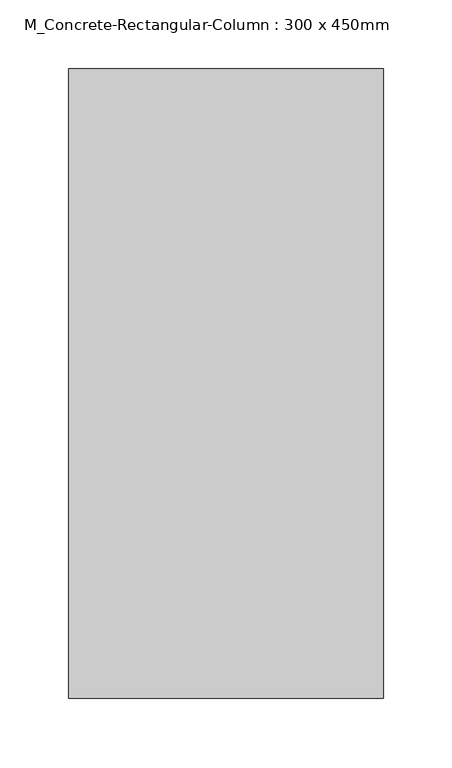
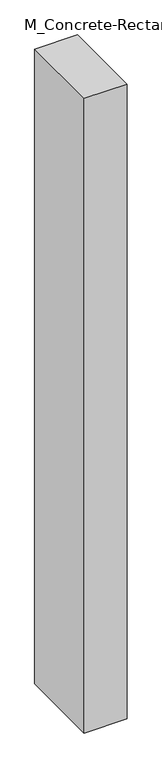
"""IFC4 building model written with IfcOpenShell, lengths in millimetres: column geometry, M_Concrete-Rectangular-Column : 300 x 450mm."""

from ifc_helpers import new_model, si_unit, frame, origin, place, context, project, spatial, polyline, outline, extrude, source, transform, mapped, element, save


def m_concrete_rectangular_column_300_x_450mm_978fc997(model_context):
    return source(origin(), model_context, "Body", "SweptSolid", [
        extrude(outline(polyline([(114.3, 228.6), (114.3, -228.6), (-114.3, -228.6), (-114.3, 228.6), (114.3, 228.6)])), frame((0.0, 0.0, 3581.4), z_axis=(0.0, 0.0, 1.0), x_axis=(1.0, 0.0, 0.0)), (0.0, 0.0, 1.0), 3581.4),
    ])


if __name__ == "__main__":
    model = new_model("IFC4")
    model_context = context("Model", 3, world=origin())
    ifc_project = project(units=[si_unit("LENGTHUNIT", "METRE", prefix="MILLI")], contexts=[model_context])
    site = spatial("IfcSite", under=ifc_project)
    building = spatial("IfcBuilding", under=site)
    placement = place(None, origin())
    m_concrete_rectangular_column_300_x_450mm_shape = m_concrete_rectangular_column_300_x_450mm_978fc997(model_context)
    element("IfcColumn", 1, ObjectType="M_Concrete-Rectangular-Column : 300 x 450mm", at=placement, inside=building, context=model_context, shape_type="MappedRepresentation", body=[
        mapped(m_concrete_rectangular_column_300_x_450mm_shape, transform((0.0, 0.0, 0.0), x_axis=(1.0, 0.0, 0.0), y_axis=(0.0, 1.0, 0.0), z_axis=(0.0, 0.0, 1.0))),
    ])
    save(model, "model.ifc")
